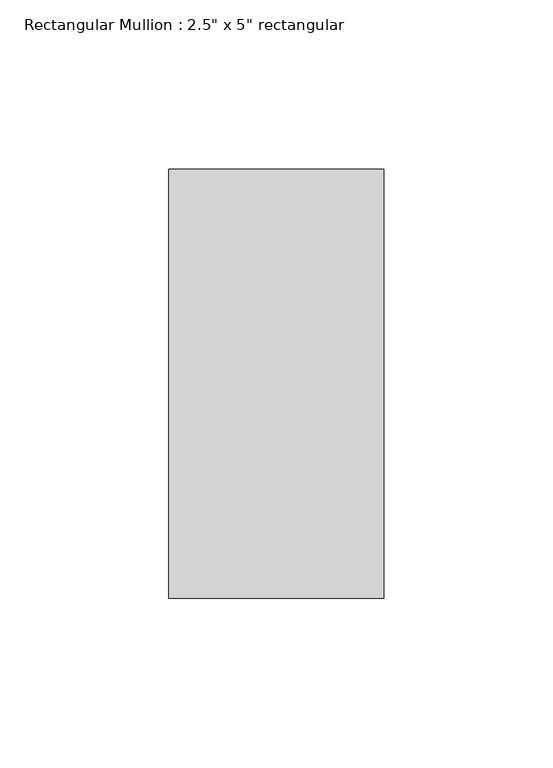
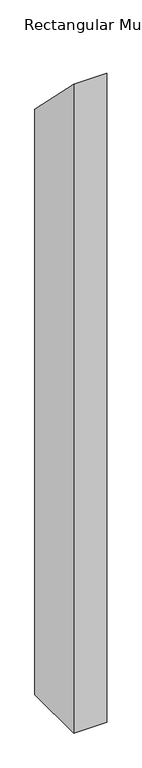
"""IFC4 building model written with IfcOpenShell, lengths in millimetres: member geometry."""

from ifc_helpers import new_model, si_unit, frame, origin, place, context, project, spatial, polyline, outline, extrude, source, transform, mapped, element, save


def member_b04022f2(model_context):
    return source(origin(), model_context, "Body", "SweptSolid", [
        extrude(outline(polyline([(-76.2, 76.2), (50.8, -50.8), (50.8, -1226.6083333), (-76.2, -1226.6083333), (-76.2, 76.2)])), frame((-63.5, 0.0, 0.0), z_axis=(1.0, 0.0, 0.0), x_axis=(0.0, 1.0, 0.0)), (0.0, 0.0, 1.0), 63.5),
    ])


if __name__ == "__main__":
    model = new_model("IFC4")
    model_context = context("Model", 3, world=origin())
    ifc_project = project(units=[si_unit("LENGTHUNIT", "METRE", prefix="MILLI")], contexts=[model_context])
    site = spatial("IfcSite", under=ifc_project)
    building = spatial("IfcBuilding", under=site)
    placement = place(None, origin())
    member_shape = member_b04022f2(model_context)
    element("IfcMember", 1, ObjectType="Rectangular Mullion : 2.5\" x 5\" rectangular", at=placement, inside=building, context=model_context, shape_type="MappedRepresentation", body=[
        mapped(member_shape, transform((0.0, 0.0, 0.0), x_axis=(1.0, 0.0, 0.0), y_axis=(0.0, 1.0, 0.0), z_axis=(0.0, 0.0, 1.0))),
    ])
    save(model, "model.ifc")
